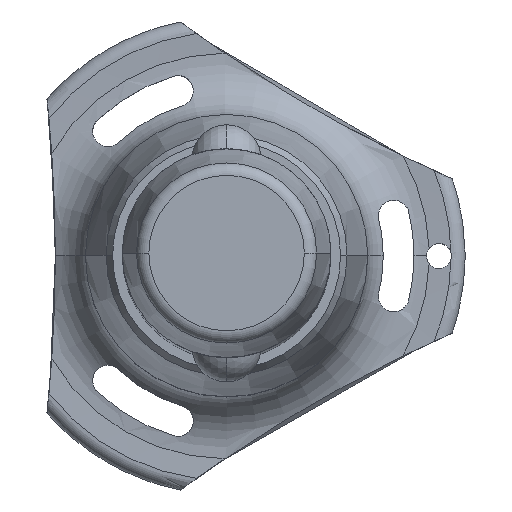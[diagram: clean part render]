
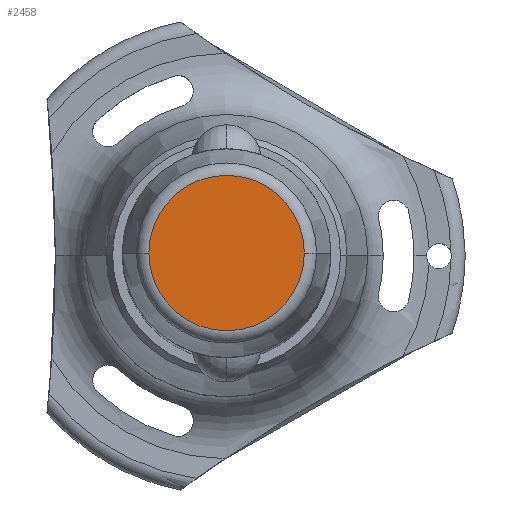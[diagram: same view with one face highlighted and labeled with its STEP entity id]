
A CAD part, top view. The second image highlights one B-rep face of the part: STEP entity #2458.
In plain terms, the highlighted planar face has unit normal (0, 0, 1).
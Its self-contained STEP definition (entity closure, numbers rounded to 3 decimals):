
#54 = EDGE_LOOP ( 'NONE', ( #847, #2169 ) ) ;
#264 = DIRECTION ( 'NONE',  ( 0., 0., 1. ) ) ;
#292 = DIRECTION ( 'NONE',  ( 1., 0., 0. ) ) ;
#454 = CARTESIAN_POINT ( 'NONE',  ( 0., 0., 22. ) ) ;
#515 = DIRECTION ( 'NONE',  ( 1., 0., 0. ) ) ;
#704 = DIRECTION ( 'NONE',  ( 1., 0., 0. ) ) ;
#847 = ORIENTED_EDGE ( 'NONE', *, *, #2581, .T. ) ;
#1089 = CIRCLE ( 'NONE', #2178, 9.302 ) ;
#1179 = CARTESIAN_POINT ( 'NONE',  ( 0., 0., 22. ) ) ;
#1321 = CARTESIAN_POINT ( 'NONE',  ( 9.302, 0., 22. ) ) ;
#1322 = AXIS2_PLACEMENT_3D ( 'NONE', #454, #264, #704 ) ;
#1445 = CARTESIAN_POINT ( 'NONE',  ( 0., 0., 22. ) ) ;
#1568 = FACE_OUTER_BOUND ( 'NONE', #54, .T. ) ;
#1576 = VERTEX_POINT ( 'NONE', #2484 ) ;
#1914 = VERTEX_POINT ( 'NONE', #1321 ) ;
#2054 = PLANE ( 'NONE',  #1322 ) ;
#2080 = DIRECTION ( 'NONE',  ( 0., 0., 1. ) ) ;
#2169 = ORIENTED_EDGE ( 'NONE', *, *, #2189, .T. ) ;
#2178 = AXIS2_PLACEMENT_3D ( 'NONE', #1179, #2080, #292 ) ;
#2189 = EDGE_CURVE ( 'NONE', #1576, #1914, #2505, .T. ) ;
#2309 = DIRECTION ( 'NONE',  ( 0., 0., 1. ) ) ;
#2458 = ADVANCED_FACE ( 'NONE', ( #1568 ), #2054, .T. ) ;
#2484 = CARTESIAN_POINT ( 'NONE',  ( -9.302, 0., 22. ) ) ;
#2505 = CIRCLE ( 'NONE', #2889, 9.302 ) ;
#2581 = EDGE_CURVE ( 'NONE', #1914, #1576, #1089, .T. ) ;
#2889 = AXIS2_PLACEMENT_3D ( 'NONE', #1445, #2309, #515 ) ;
